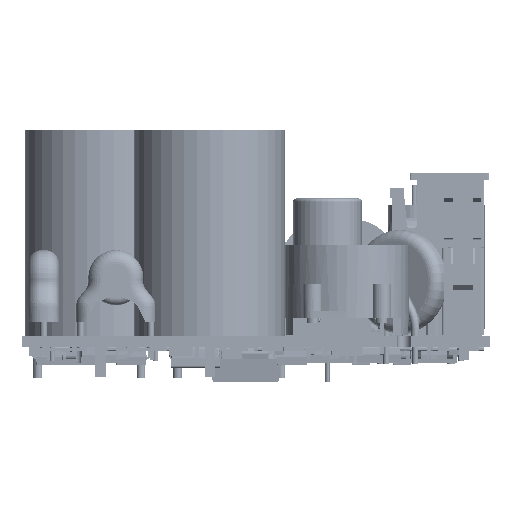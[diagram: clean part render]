
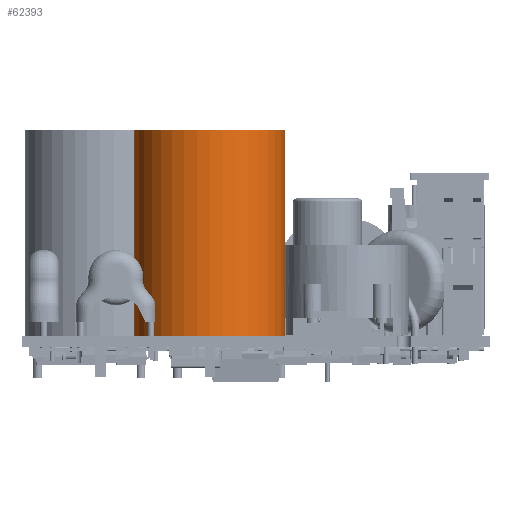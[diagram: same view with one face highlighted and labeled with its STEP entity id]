
A CAD part, left-side view. The second image highlights one B-rep face of the part: STEP entity #62393.
In plain terms, the highlighted cylindrical face has radius 11 mm (diameter 22 mm), a full revolution.
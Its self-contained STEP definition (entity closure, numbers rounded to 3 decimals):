
#62393 = ADVANCED_FACE('',(#62394),#62407,.T.);
#62394 = FACE_BOUND('',#62395,.T.);
#62395 = EDGE_LOOP('',(#62396,#62456,#62479,#62532));
#62396 = ORIENTED_EDGE('',*,*,#62397,.T.);
#62397 = EDGE_CURVE('',#62398,#62398,#62400,.T.);
#62398 = VERTEX_POINT('',#62399);
#62399 = CARTESIAN_POINT('',(11.,0.,0.));
#62400 = SURFACE_CURVE('',#62401,(#62406,#62440),.PCURVE_S1.);
#62401 = CIRCLE('',#62402,11.);
#62402 = AXIS2_PLACEMENT_3D('',#62403,#62404,#62405);
#62403 = CARTESIAN_POINT('',(0.,0.,0.));
#62404 = DIRECTION('',(0.,0.,1.));
#62405 = DIRECTION('',(1.,0.,0.));
#62406 = PCURVE('',#62407,#62412);
#62407 = CYLINDRICAL_SURFACE('',#62408,11.);
#62408 = AXIS2_PLACEMENT_3D('',#62409,#62410,#62411);
#62409 = CARTESIAN_POINT('',(0.,0.,0.));
#62410 = DIRECTION('',(0.,0.,-1.));
#62411 = DIRECTION('',(1.,0.,0.));
#62412 = DEFINITIONAL_REPRESENTATION('',(#62413),#62439);
#62413 = B_SPLINE_CURVE_WITH_KNOTS('',3,(#62414,#62415,#62416,#62417,
    #62418,#62419,#62420,#62421,#62422,#62423,#62424,#62425,#62426,
    #62427,#62428,#62429,#62430,#62431,#62432,#62433,#62434,#62435,
    #62436,#62437,#62438),.UNSPECIFIED.,.F.,.F.,(4,1,1,1,1,1,1,1,1,1,1,1
    ,1,1,1,1,1,1,1,1,1,1,4),(0.,0.286,0.571,
    0.857,1.142,1.428,1.714,
    1.999,2.285,2.57,2.856,
    3.142,3.427,3.713,3.998,
    4.284,4.57,4.855,5.141,
    5.426,5.712,5.998,6.283),
  .QUASI_UNIFORM_KNOTS.);
#62414 = CARTESIAN_POINT('',(6.283,0.));
#62415 = CARTESIAN_POINT('',(6.188,0.));
#62416 = CARTESIAN_POINT('',(5.998,0.));
#62417 = CARTESIAN_POINT('',(5.712,0.));
#62418 = CARTESIAN_POINT('',(5.426,0.));
#62419 = CARTESIAN_POINT('',(5.141,0.));
#62420 = CARTESIAN_POINT('',(4.855,0.));
#62421 = CARTESIAN_POINT('',(4.57,0.));
#62422 = CARTESIAN_POINT('',(4.284,0.));
#62423 = CARTESIAN_POINT('',(3.998,0.));
#62424 = CARTESIAN_POINT('',(3.713,0.));
#62425 = CARTESIAN_POINT('',(3.427,0.));
#62426 = CARTESIAN_POINT('',(3.142,0.));
#62427 = CARTESIAN_POINT('',(2.856,0.));
#62428 = CARTESIAN_POINT('',(2.57,0.));
#62429 = CARTESIAN_POINT('',(2.285,0.));
#62430 = CARTESIAN_POINT('',(1.999,0.));
#62431 = CARTESIAN_POINT('',(1.714,0.));
#62432 = CARTESIAN_POINT('',(1.428,0.));
#62433 = CARTESIAN_POINT('',(1.142,0.));
#62434 = CARTESIAN_POINT('',(0.857,0.));
#62435 = CARTESIAN_POINT('',(0.571,0.));
#62436 = CARTESIAN_POINT('',(0.286,0.));
#62437 = CARTESIAN_POINT('',(0.095,0.));
#62438 = CARTESIAN_POINT('',(0.,0.));
#62439 = ( GEOMETRIC_REPRESENTATION_CONTEXT(2) 
PARAMETRIC_REPRESENTATION_CONTEXT() REPRESENTATION_CONTEXT('2D SPACE',''
  ) );
#62440 = PCURVE('',#62441,#62446);
#62441 = PLANE('',#62442);
#62442 = AXIS2_PLACEMENT_3D('',#62443,#62444,#62445);
#62443 = CARTESIAN_POINT('',(11.,0.,0.));
#62444 = DIRECTION('',(0.,0.,-1.));
#62445 = DIRECTION('',(-1.,0.,0.));
#62446 = DEFINITIONAL_REPRESENTATION('',(#62447),#62455);
#62447 = ( BOUNDED_CURVE() B_SPLINE_CURVE(2,(#62448,#62449,#62450,#62451
    ,#62452,#62453,#62454),.UNSPECIFIED.,.F.,.F.) 
B_SPLINE_CURVE_WITH_KNOTS((1,2,2,2,2,1),(-2.094,0.,
    2.094,4.189,6.283,8.378),
.UNSPECIFIED.) CURVE() GEOMETRIC_REPRESENTATION_ITEM() 
RATIONAL_B_SPLINE_CURVE((1.,0.5,1.,0.5,1.,0.5,1.)) REPRESENTATION_ITEM(
  '') );
#62448 = CARTESIAN_POINT('',(0.,0.));
#62449 = CARTESIAN_POINT('',(0.,19.053));
#62450 = CARTESIAN_POINT('',(16.5,9.526));
#62451 = CARTESIAN_POINT('',(33.,0.));
#62452 = CARTESIAN_POINT('',(16.5,-9.526));
#62453 = CARTESIAN_POINT('',(0.,-19.053));
#62454 = CARTESIAN_POINT('',(0.,0.));
#62455 = ( GEOMETRIC_REPRESENTATION_CONTEXT(2) 
PARAMETRIC_REPRESENTATION_CONTEXT() REPRESENTATION_CONTEXT('2D SPACE',''
  ) );
#62456 = ORIENTED_EDGE('',*,*,#62457,.T.);
#62457 = EDGE_CURVE('',#62398,#62458,#62460,.T.);
#62458 = VERTEX_POINT('',#62459);
#62459 = CARTESIAN_POINT('',(11.,0.,30.));
#62460 = SEAM_CURVE('',#62461,(#62465,#62472),.PCURVE_S1.);
#62461 = LINE('',#62462,#62463);
#62462 = CARTESIAN_POINT('',(11.,0.,0.));
#62463 = VECTOR('',#62464,1.);
#62464 = DIRECTION('',(0.,0.,1.));
#62465 = PCURVE('',#62407,#62466);
#62466 = DEFINITIONAL_REPRESENTATION('',(#62467),#62471);
#62467 = LINE('',#62468,#62469);
#62468 = CARTESIAN_POINT('',(0.,0.));
#62469 = VECTOR('',#62470,1.);
#62470 = DIRECTION('',(0.,-1.));
#62471 = ( GEOMETRIC_REPRESENTATION_CONTEXT(2) 
PARAMETRIC_REPRESENTATION_CONTEXT() REPRESENTATION_CONTEXT('2D SPACE',''
  ) );
#62472 = PCURVE('',#62407,#62473);
#62473 = DEFINITIONAL_REPRESENTATION('',(#62474),#62478);
#62474 = LINE('',#62475,#62476);
#62475 = CARTESIAN_POINT('',(6.283,0.));
#62476 = VECTOR('',#62477,1.);
#62477 = DIRECTION('',(0.,-1.));
#62478 = ( GEOMETRIC_REPRESENTATION_CONTEXT(2) 
PARAMETRIC_REPRESENTATION_CONTEXT() REPRESENTATION_CONTEXT('2D SPACE',''
  ) );
#62479 = ORIENTED_EDGE('',*,*,#62480,.F.);
#62480 = EDGE_CURVE('',#62458,#62458,#62481,.T.);
#62481 = SURFACE_CURVE('',#62482,(#62487,#62516),.PCURVE_S1.);
#62482 = CIRCLE('',#62483,11.);
#62483 = AXIS2_PLACEMENT_3D('',#62484,#62485,#62486);
#62484 = CARTESIAN_POINT('',(0.,0.,30.));
#62485 = DIRECTION('',(0.,0.,1.));
#62486 = DIRECTION('',(1.,0.,0.));
#62487 = PCURVE('',#62407,#62488);
#62488 = DEFINITIONAL_REPRESENTATION('',(#62489),#62515);
#62489 = B_SPLINE_CURVE_WITH_KNOTS('',3,(#62490,#62491,#62492,#62493,
    #62494,#62495,#62496,#62497,#62498,#62499,#62500,#62501,#62502,
    #62503,#62504,#62505,#62506,#62507,#62508,#62509,#62510,#62511,
    #62512,#62513,#62514),.UNSPECIFIED.,.F.,.F.,(4,1,1,1,1,1,1,1,1,1,1,1
    ,1,1,1,1,1,1,1,1,1,1,4),(0.,0.286,0.571,
    0.857,1.142,1.428,1.714,
    1.999,2.285,2.57,2.856,
    3.142,3.427,3.713,3.998,
    4.284,4.57,4.855,5.141,
    5.426,5.712,5.998,6.283),
  .QUASI_UNIFORM_KNOTS.);
#62490 = CARTESIAN_POINT('',(6.283,-30.));
#62491 = CARTESIAN_POINT('',(6.188,-30.));
#62492 = CARTESIAN_POINT('',(5.998,-30.));
#62493 = CARTESIAN_POINT('',(5.712,-30.));
#62494 = CARTESIAN_POINT('',(5.426,-30.));
#62495 = CARTESIAN_POINT('',(5.141,-30.));
#62496 = CARTESIAN_POINT('',(4.855,-30.));
#62497 = CARTESIAN_POINT('',(4.57,-30.));
#62498 = CARTESIAN_POINT('',(4.284,-30.));
#62499 = CARTESIAN_POINT('',(3.998,-30.));
#62500 = CARTESIAN_POINT('',(3.713,-30.));
#62501 = CARTESIAN_POINT('',(3.427,-30.));
#62502 = CARTESIAN_POINT('',(3.142,-30.));
#62503 = CARTESIAN_POINT('',(2.856,-30.));
#62504 = CARTESIAN_POINT('',(2.57,-30.));
#62505 = CARTESIAN_POINT('',(2.285,-30.));
#62506 = CARTESIAN_POINT('',(1.999,-30.));
#62507 = CARTESIAN_POINT('',(1.714,-30.));
#62508 = CARTESIAN_POINT('',(1.428,-30.));
#62509 = CARTESIAN_POINT('',(1.142,-30.));
#62510 = CARTESIAN_POINT('',(0.857,-30.));
#62511 = CARTESIAN_POINT('',(0.571,-30.));
#62512 = CARTESIAN_POINT('',(0.286,-30.));
#62513 = CARTESIAN_POINT('',(0.095,-30.));
#62514 = CARTESIAN_POINT('',(0.,-30.));
#62515 = ( GEOMETRIC_REPRESENTATION_CONTEXT(2) 
PARAMETRIC_REPRESENTATION_CONTEXT() REPRESENTATION_CONTEXT('2D SPACE',''
  ) );
#62516 = PCURVE('',#62517,#62522);
#62517 = PLANE('',#62518);
#62518 = AXIS2_PLACEMENT_3D('',#62519,#62520,#62521);
#62519 = CARTESIAN_POINT('',(11.,0.,30.));
#62520 = DIRECTION('',(0.,0.,-1.));
#62521 = DIRECTION('',(-1.,0.,0.));
#62522 = DEFINITIONAL_REPRESENTATION('',(#62523),#62531);
#62523 = ( BOUNDED_CURVE() B_SPLINE_CURVE(2,(#62524,#62525,#62526,#62527
    ,#62528,#62529,#62530),.UNSPECIFIED.,.F.,.F.) 
B_SPLINE_CURVE_WITH_KNOTS((1,2,2,2,2,1),(-2.094,0.,
    2.094,4.189,6.283,8.378),
.UNSPECIFIED.) CURVE() GEOMETRIC_REPRESENTATION_ITEM() 
RATIONAL_B_SPLINE_CURVE((1.,0.5,1.,0.5,1.,0.5,1.)) REPRESENTATION_ITEM(
  '') );
#62524 = CARTESIAN_POINT('',(0.,0.));
#62525 = CARTESIAN_POINT('',(0.,19.053));
#62526 = CARTESIAN_POINT('',(16.5,9.526));
#62527 = CARTESIAN_POINT('',(33.,0.));
#62528 = CARTESIAN_POINT('',(16.5,-9.526));
#62529 = CARTESIAN_POINT('',(0.,-19.053));
#62530 = CARTESIAN_POINT('',(0.,0.));
#62531 = ( GEOMETRIC_REPRESENTATION_CONTEXT(2) 
PARAMETRIC_REPRESENTATION_CONTEXT() REPRESENTATION_CONTEXT('2D SPACE',''
  ) );
#62532 = ORIENTED_EDGE('',*,*,#62457,.F.);
